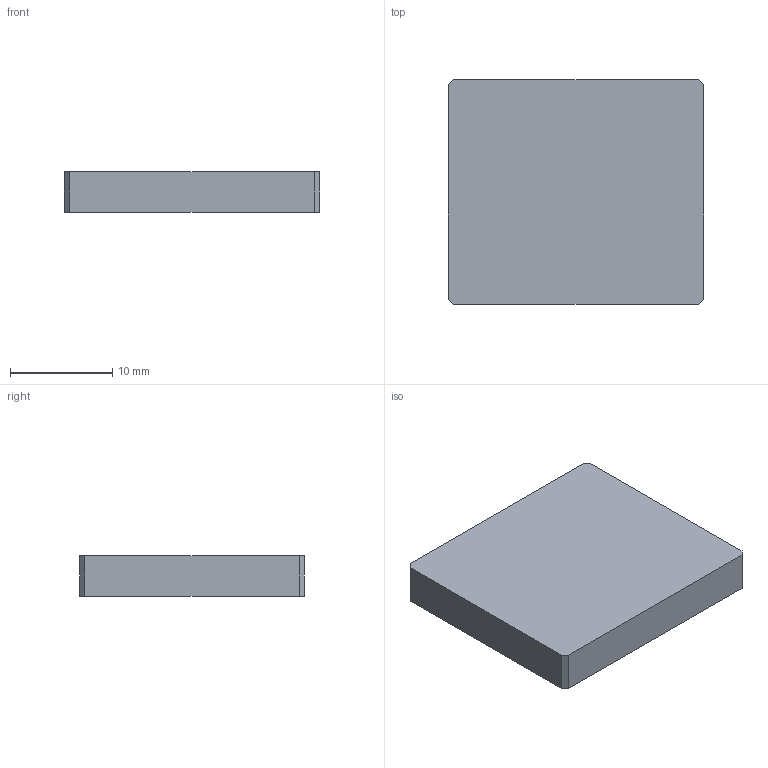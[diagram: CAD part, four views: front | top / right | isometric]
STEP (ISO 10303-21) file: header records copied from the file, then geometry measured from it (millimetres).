
FILE_DESCRIPTION(('Open CASCADE Model'),'2;1');
FILE_NAME('Open CASCADE Shape Model','2026-10-02T13:48:50',('Author'),( 'Open CASCADE'),'Open CASCADE STEP processor 7.8','Open CASCADE 7.8' ,'Unknown');
FILE_SCHEMA(('AUTOMOTIVE_DESIGN { 1 0 10303 214 1 1 1 1 }'));
Length unit declared in the file: millimetre
Products named in the file (1): Open CASCADE STEP translator 7.8 12
Bounding box: 25 x 22 x 4 mm (x, y, z)
Volume: 2198 mm3; surface area: 1470.3 mm2
Topology: 1 solids, 1 shells, 10 faces, 24 edges, 16 vertices
Faces by surface type: plane 10
Entity records: 610 total; most frequent: CARTESIAN_POINT 99, DIRECTION 94, LINE 72, VECTOR 72, ORIENTED_EDGE 48, PCURVE 48, DEFINITIONAL_REPRESENTATION 48, EDGE_CURVE 24
